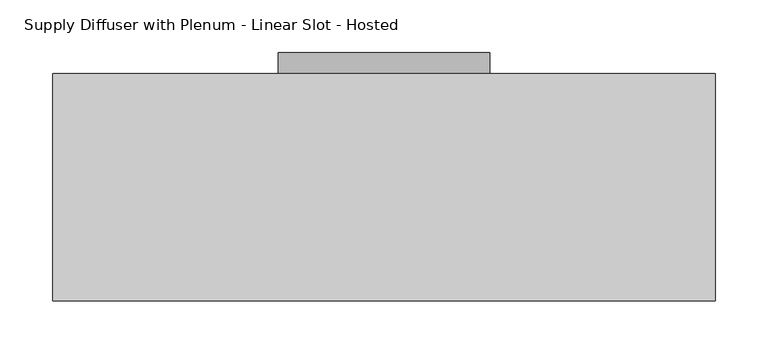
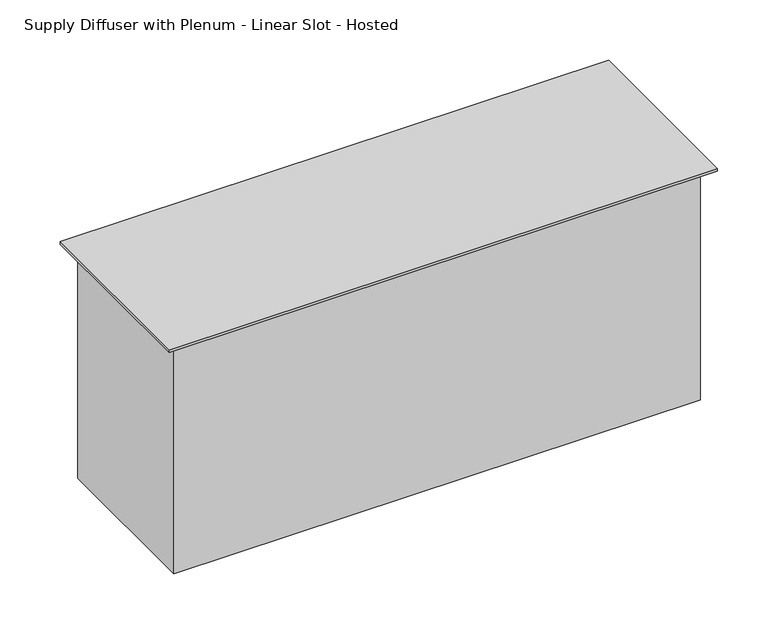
"""IFC4 building model written with IfcOpenShell, lengths in millimetres: air terminal geometry."""

import ifcopenshell
import ifcopenshell.guid

model = None  # the IFC model being written
_history = None  # IfcOwnerHistory: only IFC2X3 demands one
_inside = {}  # id of a spatial element -> (the spatial element, [elements in it])
_under = {}  # id of a project, library or spatial element -> (it, [spatial elements below it])
_declared = {}  # id of a project -> (the project, [libraries it declares])
_typed = {}  # id of a type object -> (the type object, [elements of that type])
_made_of = {}  # id of a material, layer set ... -> (it, [elements and type objects made of it])


def new_model(schema):
    """Start an empty IFC model of exactly this schema.

    Asked for "IFC4X3", IfcOpenShell would pick the latest addendum, in which some entities
    have other attributes; the version numbers below select the first issue.
    IFC2X3 requires an IfcOwnerHistory on every rooted entity: one is made here for all.
    """
    global model, _history
    if schema == "IFC4X3":
        model = ifcopenshell.file(schema_version=(4, 3, 0, 0))
    else:
        model = ifcopenshell.file(schema=schema)
    _inside.clear()
    _under.clear()
    _declared.clear()
    _typed.clear()
    _made_of.clear()
    _history = None
    if model.schema == "IFC2X3":
        org = make("IfcOrganization", Name="unknown")
        user = make(
            "IfcPersonAndOrganization",
            ThePerson=make("IfcPerson", FamilyName="unknown"),
            TheOrganization=org,
        )
        app = make(
            "IfcApplication",
            ApplicationDeveloper=org,
            Version="unknown",
            ApplicationFullName="unknown",
            ApplicationIdentifier="unknown",
        )
        _history = make(
            "IfcOwnerHistory",
            OwningUser=user,
            OwningApplication=app,
            ChangeAction="ADDED",
            CreationDate=0,
        )
    return model


def make(cls, **values):
    """One entity of the class cls with the attributes given. An attribute that is None is left unset."""
    return model.create_entity(
        cls, **{name: value for name, value in values.items() if value is not None}
    )


def rooted(cls, **values):
    """An entity with a GlobalId (a new one), such as an element, a storey or a relation."""
    return make(cls, GlobalId=ifcopenshell.guid.new(), OwnerHistory=_history, **values)


def si_unit(unit_type, name, prefix=None):
    """IfcSIUnit, for example si_unit("LENGTHUNIT", "METRE", prefix="MILLI")."""
    return make("IfcSIUnit", UnitType=unit_type, Prefix=prefix, Name=name)


def assignment(units):
    """IfcUnitAssignment: the units of a project."""
    return None if units is None else make("IfcUnitAssignment", Units=units)


def point(xyz):
    """IfcCartesianPoint."""
    return None if xyz is None else make("IfcCartesianPoint", Coordinates=xyz)


def direction(xyz):
    """IfcDirection."""
    return None if xyz is None else make("IfcDirection", DirectionRatios=xyz)


def frame(location, z_axis=None, x_axis=None):
    """IfcAxis2Placement3D, a coordinate frame: its origin and axes. An axis left out is left unset."""
    return make(
        "IfcAxis2Placement3D",
        Location=point(location),
        Axis=direction(z_axis),
        RefDirection=direction(x_axis),
    )


def frame_2d(location, x_axis=None):
    """IfcAxis2Placement2D, a coordinate frame in the plane: its origin and x axis."""
    return make(
        "IfcAxis2Placement2D", Location=point(location), RefDirection=direction(x_axis)
    )


def origin():
    """The frame at (0, 0, 0) with its axes left unset."""
    return frame((0.0, 0.0, 0.0))


def origin_with_axes():
    """The frame at (0, 0, 0) with the z axis (0, 0, 1) and the x axis (1, 0, 0) written out."""
    return frame((0.0, 0.0, 0.0), z_axis=(0.0, 0.0, 1.0), x_axis=(1.0, 0.0, 0.0))


def place(relative_to, where):
    """IfcLocalPlacement: puts the frame where relative to a parent placement (None: the world)."""
    return make(
        "IfcLocalPlacement", PlacementRelTo=relative_to, RelativePlacement=where
    )


def context(
    kind, dimensions, precision=None, world=None, true_north=None, identifier=None
):
    """IfcGeometricRepresentationContext, for example the 3D "Model" context."""
    return make(
        "IfcGeometricRepresentationContext",
        ContextIdentifier=identifier,
        ContextType=kind,
        CoordinateSpaceDimension=dimensions,
        Precision=precision,
        WorldCoordinateSystem=world,
        TrueNorth=true_north,
    )


def project(units=None, contexts=None):
    """IfcProject with its units and contexts."""
    return rooted(
        "IfcProject",
        Name="project",
        RepresentationContexts=contexts,
        UnitsInContext=assignment(units),
    )


def spatial(cls, under=None, at=None, **own):
    """A site, building, storey or space (cls), placed at a placement, below another one or the project."""
    s = rooted(cls, ObjectPlacement=at, **own)
    if under is not None:
        _under.setdefault(under.id(), (under, []))[1].append(s)
    return s


def polyline(points):
    """IfcPolyline through the points."""
    return make("IfcPolyline", Points=[point(p) for p in points])


def circle_curve(where, radius):
    """IfcCircle in the frame where."""
    return make("IfcCircle", Position=where, Radius=radius)


def trimmed(basis, trim1, trim2, sense, master):
    """IfcTrimmedCurve: the piece of a basis curve between two trims."""
    return make(
        "IfcTrimmedCurve",
        BasisCurve=basis,
        Trim1=trim1,
        Trim2=trim2,
        SenseAgreement=sense,
        MasterRepresentation=master,
    )


def segment(curve, same_sense, transition):
    """IfcCompositeCurveSegment."""
    return make(
        "IfcCompositeCurveSegment",
        Transition=transition,
        SameSense=same_sense,
        ParentCurve=curve,
    )


def composite_curve(segments, self_intersect=None):
    """IfcCompositeCurve: segments joined end to end."""
    return make("IfcCompositeCurve", Segments=segments, SelfIntersect=self_intersect)


def outline(outer, holes=None, kind="AREA"):
    """IfcArbitraryClosedProfileDef: a profile drawn as a closed curve; with holes, ...WithVoids."""
    if holes is None:
        return make("IfcArbitraryClosedProfileDef", ProfileType=kind, OuterCurve=outer)
    return make(
        "IfcArbitraryProfileDefWithVoids",
        ProfileType=kind,
        OuterCurve=outer,
        InnerCurves=holes,
    )


def extrude(swept, where, along, depth):
    """IfcExtrudedAreaSolid: the profile swept, set in the frame where, extruded along a direction by depth."""
    return make(
        "IfcExtrudedAreaSolid",
        SweptArea=swept,
        Position=where,
        ExtrudedDirection=direction(along),
        Depth=depth,
    )


def shape(context_of_items, identifier, shape_type, items):
    """IfcShapeRepresentation: the items that make up one representation, for example the "Body"."""
    return make(
        "IfcShapeRepresentation",
        ContextOfItems=context_of_items,
        RepresentationIdentifier=identifier,
        RepresentationType=shape_type,
        Items=items,
    )


def source(mapping_origin, context_of_items, identifier, shape_type, items):
    """IfcRepresentationMap: a shape defined once, which mapped items show again and again."""
    return make(
        "IfcRepresentationMap",
        MappingOrigin=mapping_origin,
        MappedRepresentation=shape(context_of_items, identifier, shape_type, items),
    )


def transform(
    local_origin,
    x_axis=None,
    y_axis=None,
    z_axis=None,
    scale=None,
    scale2=None,
    scale3=None,
    uniform=True,
):
    """IfcCartesianTransformationOperator3D, or its non-uniform kind. x_axis, y_axis, z_axis: its Axis1, 2, 3."""
    if uniform:
        return make(
            "IfcCartesianTransformationOperator3D",
            Axis1=direction(x_axis),
            Axis2=direction(y_axis),
            LocalOrigin=point(local_origin),
            Scale=scale,
            Axis3=direction(z_axis),
        )
    return make(
        "IfcCartesianTransformationOperator3DnonUniform",
        Axis1=direction(x_axis),
        Axis2=direction(y_axis),
        LocalOrigin=point(local_origin),
        Scale=scale,
        Axis3=direction(z_axis),
        Scale2=scale2,
        Scale3=scale3,
    )


def mapped(mapping_source, mapping_target):
    """IfcMappedItem: shows the shape of a source again, moved by a transform."""
    return make(
        "IfcMappedItem", MappingSource=mapping_source, MappingTarget=mapping_target
    )


def made_of(thing, what):
    """Note that an element or type object is made of a material, layer set ...; save() writes the relation."""
    if what is not None:
        _made_of.setdefault(what.id(), (what, []))[1].append(thing)
    return thing


def element(
    cls,
    number,
    at=None,
    inside=None,
    cuts=None,
    type_object=None,
    material=None,
    context=None,
    identifier="Body",
    shape_type=None,
    held_by="IfcProductDefinitionShape",
    body=None,
    shapes=None,
    **own,
):
    """One element of the class cls, such as IfcWall. Its Tag is "e" and its number.

    at: its placement. inside: the storey or other place that contains it. cuts: it is an
    opening in that element (IfcRelVoidsElement). A single representation is given by context,
    identifier, shape_type and body (its items); several are given by shapes. held_by: the class
    of the entity that holds the representations. save() writes the other relations.
    """
    e = rooted(cls, Tag="e%d" % number, ObjectPlacement=at, **own)
    if body is not None:
        shapes = [shape(context, identifier, shape_type, body)]
    if shapes is not None:
        e.Representation = make(held_by, Representations=shapes)
    if inside is not None:
        _inside.setdefault(inside.id(), (inside, []))[1].append(e)
    if cuts is not None:
        rooted(
            "IfcRelVoidsElement", RelatingBuildingElement=cuts, RelatedOpeningElement=e
        )
    if type_object is not None:
        _typed.setdefault(type_object.id(), (type_object, []))[1].append(e)
    return made_of(e, material)


def aggregate(whole, parts):
    """IfcRelAggregates: a whole, such as a stair, and the parts it consists of."""
    return rooted("IfcRelAggregates", RelatingObject=whole, RelatedObjects=parts)


def save(model, path):
    """Write the relations noted so far, then the file.

    IfcRelAggregates (storeys below a building ...), IfcRelContainedInSpatialStructure (elements
    in a storey), IfcRelDefinesByType, IfcRelAssociatesMaterial and IfcRelDeclares: one each for
    every whole, place, type object, material and project.
    """
    for whole, parts in _under.values():
        aggregate(whole, parts)
    for where, things in _inside.values():
        rooted(
            "IfcRelContainedInSpatialStructure",
            RelatedElements=things,
            RelatingStructure=where,
        )
    for kind, things in _typed.values():
        rooted("IfcRelDefinesByType", RelatedObjects=things, RelatingType=kind)
    for what, things in _made_of.values():
        rooted("IfcRelAssociatesMaterial", RelatedObjects=things, RelatingMaterial=what)
    for by, libraries in _declared.values():
        rooted("IfcRelDeclares", RelatingContext=by, RelatedDefinitions=libraries)
    model.write(path)


def supply_diffuser_with_plenum_linear_slot_hosted_7a86b773(model_context):
    return source(origin(), model_context, "Body", "SweptSolid", [
        extrude(outline(composite_curve([segment(trimmed(circle_curve(frame_2d((-154.4, 0.0)), 100.0), [point((-154.4, -100.0))], [point((-154.4, 100.0))], False, "CARTESIAN"), True, "CONTINUOUS"), segment(trimmed(circle_curve(frame_2d((-154.4, 0.0)), 100.0), [point((-154.4, 100.0))], [point((-154.4, -100.0))], False, "CARTESIAN"), True, "CONTINUOUS")], self_intersect=False)), frame((0.0, 95.0, 0.0), z_axis=(0.0, 1.0, 0.0), x_axis=(0.0, 0.0, 1.0)), (0.0, 0.0, 1.0), 32.0),
        extrude(outline(polyline([(312.5, -107.5), (-312.5, -107.5), (-312.5, 107.5), (312.5, 107.5), (312.5, -107.5)])), origin_with_axes(), (0.0, 0.0, 1.0), 3.175),
        extrude(outline(polyline([(300.0, -95.0), (-300.0, -95.0), (-300.0, 95.0), (300.0, 95.0), (300.0, -95.0)])), frame((0.0, 0.0, -279.4), z_axis=(0.0, 0.0, 1.0), x_axis=(1.0, 0.0, 0.0)), (0.0, 0.0, 1.0), 279.4),
    ])


if __name__ == "__main__":
    model = new_model("IFC4")
    model_context = context("Model", 3, world=origin())
    ifc_project = project(units=[si_unit("LENGTHUNIT", "METRE", prefix="MILLI")], contexts=[model_context])
    site = spatial("IfcSite", under=ifc_project)
    building = spatial("IfcBuilding", under=site)
    placement = place(None, origin())
    supply_diffuser_with_plenum_linear_slot_hosted_shape = supply_diffuser_with_plenum_linear_slot_hosted_7a86b773(model_context)
    element("IfcAirTerminal", 1, ObjectType="Supply Diffuser with Plenum - Linear Slot - Hosted : 24\" x 8\"-200 In Inlet  4-Slot", at=placement, inside=building, context=model_context, shape_type="MappedRepresentation", body=[
        mapped(supply_diffuser_with_plenum_linear_slot_hosted_shape, transform((0.0, 0.0, 0.0), x_axis=(1.0, 0.0, 0.0), y_axis=(0.0, 1.0, 0.0), z_axis=(0.0, 0.0, 1.0))),
    ])
    save(model, "model.ifc")
